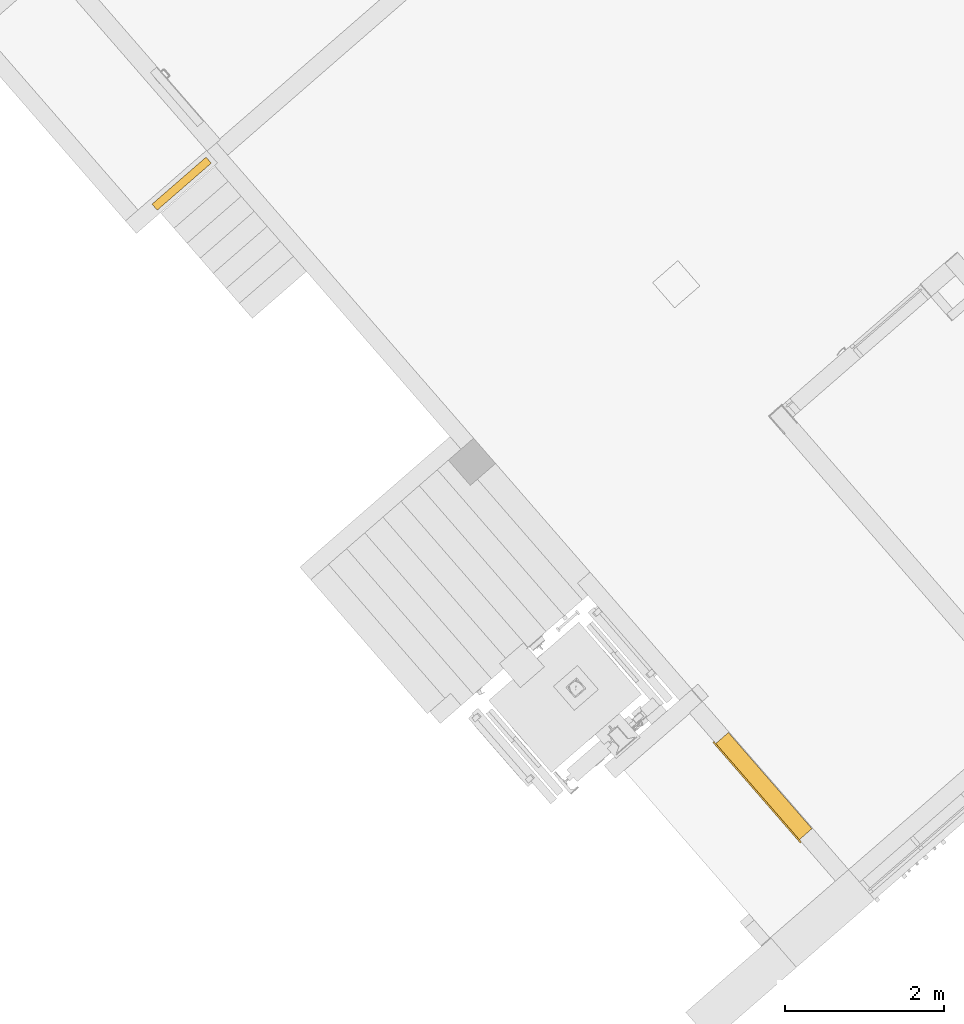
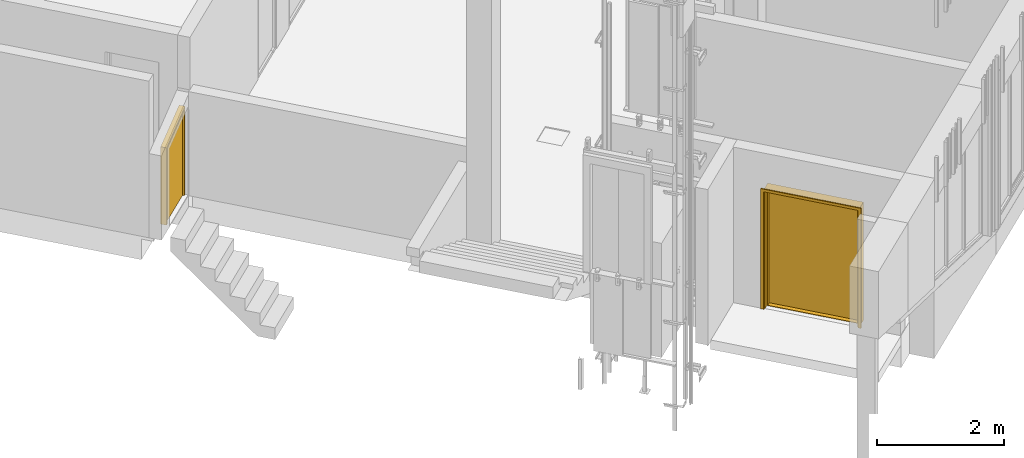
# One storey, part 105 of 124: 2 doors.
"""IFC2X3 building model written with IfcOpenShell, lengths in millimetres."""

from ifc_helpers import new_model, entity, si_unit, converted_unit, derived_unit, money_unit, direction, frame, origin_with_axes, place, context, subcontext, project, spatial, faceted_brep, material, material_list, type_object, element, save


model = new_model("IFC2X3")

# Units and contexts
model_context = context("Model", 3, precision=1e-05, world=origin_with_axes(), true_north=direction((0.0, 1.0)))
body_context = subcontext(model_context, "Body", "Model", "MODEL_VIEW")
ifc_project = project(units=[si_unit("LENGTHUNIT", "METRE", prefix="MILLI"), si_unit("AREAUNIT", "SQUARE_METRE"), si_unit("VOLUMEUNIT", "CUBIC_METRE"), converted_unit("PLANEANGLEUNIT", "DEGREE", entity("IfcPlaneAngleMeasure", 0.0174532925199), si_unit("PLANEANGLEUNIT", "RADIAN"), dimensions=[0, 0, 0, 0, 0, 0, 0]), si_unit("SOLIDANGLEUNIT", "STERADIAN"), money_unit("EUR"), converted_unit("TIMEUNIT", "Year", entity("IfcTimeMeasure", 31556926.0), si_unit("TIMEUNIT", "SECOND"), dimensions=[0, 0, 1, 0, 0, 0, 0]), si_unit("MASSUNIT", "GRAM", prefix="KILO"), si_unit("THERMODYNAMICTEMPERATUREUNIT", "DEGREE_CELSIUS"), si_unit("LUMINOUSINTENSITYUNIT", "LUMEN"), si_unit("ENERGYUNIT", "JOULE", prefix="MEGA"), derived_unit("THERMALCONDUCTANCEUNIT", [(si_unit("POWERUNIT", "WATT"), 1), (si_unit("LENGTHUNIT", "METRE"), -1), (si_unit("THERMODYNAMICTEMPERATUREUNIT", "KELVIN"), -1)]), derived_unit("SPECIFICHEATCAPACITYUNIT", [(si_unit("ENERGYUNIT", "JOULE"), 1), (si_unit("MASSUNIT", "GRAM", prefix="KILO"), -1), (si_unit("THERMODYNAMICTEMPERATUREUNIT", "KELVIN"), -1)]), derived_unit("MASSDENSITYUNIT", [(si_unit("MASSUNIT", "GRAM", prefix="KILO"), 1), (si_unit("VOLUMEUNIT", "CUBIC_METRE"), -1)])], contexts=[model_context])

# Site, building, storey
site_placement = place(None, origin_with_axes())
site = spatial("IfcSite", under=ifc_project, at=site_placement, Name="Site", CompositionType="ELEMENT")
building_placement = place(site_placement, origin_with_axes())
building = spatial("IfcBuilding", under=site, at=building_placement, Name="Building", CompositionType="ELEMENT")
storey_placement = place(building_placement, frame((0.0, 0.0, -1615.0), z_axis=(0.0, 0.0, 1.0), x_axis=(1.0, 0.0, 0.0)))
storey = spatial("IfcBuildingStorey", under=building, at=storey_placement, Name="0  korrus", CompositionType="ELEMENT", Elevation=-1615.0)

# Doors
door_style_1 = type_object("IfcDoorStyle", Name="SU-18   1\xa0600×2\xa0280", ConstructionType="NOTDEFINED", OperationType="DOUBLE_DOOR_SINGLE_SWING", ParameterTakesPrecedence=False, Sizeable=False)
door_1_placement = place(storey_placement, frame((148868.266311, 77765.7627763, 0.0), z_axis=(0.0, 0.0, 1.0), x_axis=(0.656059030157, -0.754709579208, 0.0)))
element("IfcDoor", 1, at=door_1_placement, inside=storey, type_object=door_style_1, Name="Siseuks * Double Door 22", OverallHeight=2280.0, OverallWidth=1600.0, context=body_context, shape_type="Brep", body=[
    faceted_brep([(1572.0, 170.0, 0.0), (1572.0, 170.0, 10.0), (1560.0, 170.0, 10.0), (1560.0, 170.0, 0.0), (28.0, 170.0, 0.0), (28.0, 170.0, 10.0), (40.0, 170.0, 10.0), (40.0, 95.0, 10.0), (1560.0, 95.0, 10.0), (1560.0, 95.0, 0.0), (40.0, 95.0, 0.0), (40.0, 170.0, 0.0)], [[[0, 1, 2, 3]], [[4, 5, 1, 0]], [[1, 5, 6, 7, 8, 2]], [[3, 2, 8, 9]], [[0, 3, 9, 10, 11, 4]], [[11, 6, 5, 4]], [[10, 7, 6, 11]], [[9, 8, 7, 10]]]),
    faceted_brep([(0.0, 95.0, 0.0), (25.0, 95.0, 0.0), (25.0, 0.0, 0.0), (0.0, 0.0, 0.0), (0.0, 95.0, 2280.0), (25.0, 95.0, 2255.0), (25.0, 0.0, 2255.0), (0.0, 0.0, 2280.0)], [[[0, 1, 2, 3]], [[0, 4, 5, 1]], [[1, 5, 6, 2]], [[3, 2, 6, 7]], [[4, 0, 3, 7]], [[5, 4, 7, 6]]]),
    faceted_brep([(1600.0, 95.0, 2280.0), (1575.0, 95.0, 2255.0), (1575.0, 0.0, 2255.0), (1600.0, 0.0, 2280.0), (1600.0, 95.0, 0.0), (1575.0, 95.0, 0.0), (1575.0, 0.0, 0.0), (1600.0, 0.0, 0.0)], [[[0, 1, 2, 3]], [[0, 4, 5, 1]], [[1, 5, 6, 2]], [[3, 2, 6, 7]], [[4, 0, 3, 7]], [[5, 4, 7, 6]]]),
    faceted_brep([(25.0, 95.0, 2255.0), (1575.0, 95.0, 2255.0), (1575.0, 0.0, 2255.0), (25.0, 0.0, 2255.0), (0.0, 95.0, 2280.0), (1600.0, 95.0, 2280.0), (1600.0, 0.0, 2280.0), (0.0, 0.0, 2280.0)], [[[0, 1, 2, 3]], [[0, 4, 5, 1]], [[1, 5, 6, 2]], [[3, 2, 6, 7]], [[4, 0, 3, 7]], [[5, 4, 7, 6]]]),
    faceted_brep([(-37.0, -19.0, 0.0), (-37.0, 0.0, 0.0), (13.0, 0.0, 0.0), (13.0, -19.0, 0.0), (-37.0, -19.0, 2317.0), (-37.0, 0.0, 2317.0), (13.0, 0.0, 2267.0), (13.0, -19.0, 2267.0)], [[[0, 1, 2, 3]], [[4, 5, 1, 0]], [[1, 5, 6, 2]], [[3, 2, 6, 7]], [[0, 3, 7, 4]], [[7, 6, 5, 4]]]),
    faceted_brep([(1637.0, -19.0, 2317.0), (1637.0, 0.0, 2317.0), (1587.0, 0.0, 2267.0), (1587.0, -19.0, 2267.0), (1637.0, -19.0, 0.0), (1637.0, 0.0, 0.0), (1587.0, 0.0, 0.0), (1587.0, -19.0, 0.0)], [[[0, 1, 2, 3]], [[4, 5, 1, 0]], [[1, 5, 6, 2]], [[3, 2, 6, 7]], [[0, 3, 7, 4]], [[7, 6, 5, 4]]]),
    faceted_brep([(-37.0, -19.0, 2317.0), (-37.0, 0.0, 2317.0), (13.0, 0.0, 2267.0), (13.0, -19.0, 2267.0), (1637.0, -19.0, 2317.0), (1637.0, 0.0, 2317.0), (1587.0, 0.0, 2267.0), (1587.0, -19.0, 2267.0)], [[[0, 1, 2, 3]], [[4, 5, 1, 0]], [[1, 5, 6, 2]], [[3, 2, 6, 7]], [[0, 3, 7, 4]], [[7, 6, 5, 4]]]),
    faceted_brep([(40.0, 170.0, 0.0), (40.0, 170.0, 2240.0), (40.0, 95.0, 2240.0), (40.0, 95.0, 0.0), (28.0, 170.0, 2240.0), (28.0, 170.0, 0.0), (28.0, 210.0, 2240.0), (0.0, 210.0, 2240.0), (0.0, 95.0, 2240.0), (0.0, 95.0, 0.0), (0.0, 210.0, 0.0), (28.0, 210.0, 0.0)], [[[0, 1, 2, 3]], [[4, 1, 0, 5]], [[4, 6, 7, 8, 2, 1]], [[3, 2, 8, 9]], [[5, 0, 3, 9, 10, 11]], [[6, 4, 5, 11]], [[6, 11, 10, 7]], [[10, 9, 8, 7]]]),
    faceted_brep([(1572.0, 170.0, 2240.0), (1560.0, 170.0, 2240.0), (1560.0, 95.0, 2240.0), (1600.0, 95.0, 2240.0), (1600.0, 210.0, 2240.0), (1572.0, 210.0, 2240.0), (1572.0, 170.0, 0.0), (1560.0, 170.0, 0.0), (1560.0, 95.0, 0.0), (1600.0, 95.0, 0.0), (1600.0, 210.0, 0.0), (1572.0, 210.0, 0.0)], [[[0, 1, 2, 3, 4, 5]], [[1, 0, 6, 7]], [[1, 7, 8, 2]], [[3, 2, 8, 9]], [[4, 3, 9, 10]], [[11, 5, 4, 10]], [[0, 5, 11, 6]], [[6, 11, 10, 9, 8, 7]]]),
    faceted_brep([(28.0, 210.0, 2252.0), (28.0, 210.0, 2240.0), (0.0, 210.0, 2240.0), (0.0, 210.0, 2280.0), (1600.0, 210.0, 2280.0), (1600.0, 210.0, 2240.0), (1572.0, 210.0, 2240.0), (1572.0, 210.0, 2252.0), (28.0, 170.0, 2252.0), (28.0, 170.0, 2240.0), (40.0, 170.0, 2240.0), (40.0, 95.0, 2240.0), (0.0, 95.0, 2240.0), (0.0, 95.0, 2280.0), (1600.0, 95.0, 2280.0), (1600.0, 95.0, 2240.0), (1572.0, 170.0, 2240.0), (1560.0, 95.0, 2240.0), (1560.0, 170.0, 2240.0), (1572.0, 170.0, 2252.0)], [[[0, 1, 2, 3, 4, 5, 6, 7]], [[1, 0, 8, 9]], [[9, 10, 11, 12, 2, 1]], [[2, 12, 13, 3]], [[3, 13, 14, 4]], [[4, 14, 15, 5]], [[16, 6, 5, 15, 17, 18]], [[7, 6, 16, 19]], [[0, 7, 19, 8]], [[16, 18, 10, 9, 8, 19]], [[10, 18, 17, 11]], [[17, 15, 14, 13, 12, 11]]]),
    faceted_brep([(1572.0, 210.0, 0.0), (1572.0, 170.0, 0.0), (800.0, 170.0, 0.0), (800.0, 210.0, 0.0), (1572.0, 210.0, 2252.0), (1572.0, 170.0, 2252.0), (800.0, 170.0, 2252.0), (800.0, 210.0, 2252.0)], [[[0, 1, 2, 3]], [[4, 5, 1, 0]], [[1, 5, 6, 2]], [[3, 2, 6, 7]], [[0, 3, 7, 4]], [[7, 6, 5, 4]]]),
    faceted_brep([(28.0, 210.0, 0.0), (800.0, 210.0, 0.0), (800.0, 170.0, 0.0), (28.0, 170.0, 0.0), (28.0, 210.0, 2252.0), (800.0, 210.0, 2252.0), (800.0, 170.0, 2252.0), (28.0, 170.0, 2252.0)], [[[0, 1, 2, 3]], [[0, 4, 5, 1]], [[1, 5, 6, 2]], [[3, 2, 6, 7]], [[4, 0, 3, 7]], [[5, 4, 7, 6]]]),
])
ifc_material = material(Name="Teras (musta värvi)")
ifc_material_list = material_list([ifc_material, ifc_material])
door_style_2 = type_object("IfcDoorStyle", Name="SU-19   900×1\xa0700", ConstructionType="NOTDEFINED", OperationType="NOTDEFINED", ParameterTakesPrecedence=False, Sizeable=False)
door_2_placement = place(storey_placement, frame((142563.538471, 85018.5213478, 0.0), z_axis=(0.0, 0.0, 1.0), x_axis=(-0.754709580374, -0.656059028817, 0.0)))
element("IfcDoor", 2, at=door_2_placement, inside=storey, type_object=door_style_2, material=ifc_material_list, Name="Siseuks * Viltune uks 1", OverallHeight=1700.0, OverallWidth=900.0, context=body_context, shape_type="Brep", body=[
    faceted_brep([(-2.90000912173e-06, -150.0, -1.00002006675e-07), (-2.89998070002e-06, -50.0, -1.00002006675e-07), (40.0000069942, -50.0, -1.00002006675e-07), (40.0000069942, -150.0, -1.00002006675e-07), (-2.90000912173e-06, -150.0, 1699.99999993), (-2.89998070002e-06, -50.0, 1699.99999993), (899.999979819, -50.0, 1489.99998954), (899.999979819, -50.0, -1.00002006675e-07), (859.999995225, -50.0, -1.00002006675e-07), (859.999995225, -50.0, 1458.25886914), (40.0000069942, -50.0, 1649.59221143), (40.0000069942, -150.0, 1649.59221143), (859.999995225, -150.0, 1458.25886914), (859.999995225, -150.0, -1.00002006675e-07), (899.999979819, -150.0, -1.00002006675e-07), (899.999979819, -150.0, 1489.99998954)], [[[0, 1, 2, 3]], [[4, 5, 1, 0]], [[2, 1, 5, 6, 7, 8, 9, 10]], [[3, 2, 10, 11]], [[4, 0, 3, 11, 12, 13, 14, 15]], [[15, 6, 5, 4]], [[14, 7, 6, 15]], [[13, 8, 7, 14]], [[12, 9, 8, 13]], [[11, 10, 9, 12]]]),
    faceted_brep([(859.999997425, -120.0, 1458.25888064), (859.999997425, -80.0, 1458.25888064), (39.9999965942, -80.0, 1649.59221253), (39.9999965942, -120.0, 1649.59221253), (859.999997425, -120.0, -1.00002006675e-07), (859.999997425, -80.0, -1.00002006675e-07), (39.9999965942, -80.0, -1.00002006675e-07), (39.9999965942, -120.0, -1.00002006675e-07)], [[[0, 1, 2, 3]], [[4, 5, 1, 0]], [[2, 1, 5, 6]], [[3, 2, 6, 7]], [[4, 0, 3, 7]], [[7, 6, 5, 4]]]),
])

save(model, "model.ifc")
